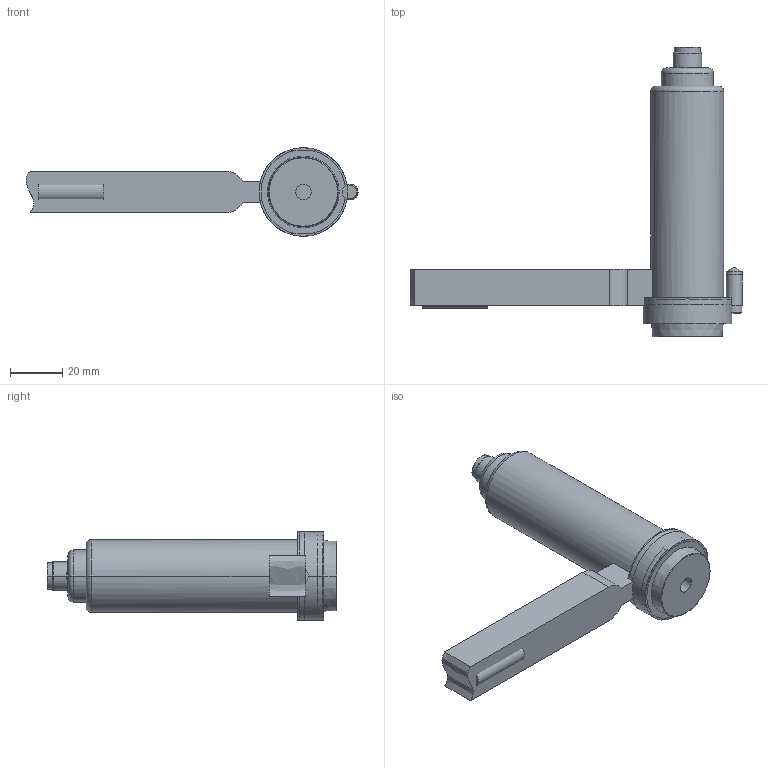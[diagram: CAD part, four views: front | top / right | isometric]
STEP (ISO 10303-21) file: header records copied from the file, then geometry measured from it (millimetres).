
FILE_DESCRIPTION((''),'2;1');
FILE_NAME('DG070004-R_ASM','2020-04-02T',('benoit'),(''),'PRO/ENGINEER BY PARAMETRIC TECHNOLOGY CORPORATION, 2007450','PRO/ENGINEER BY PARAMETRIC TECHNOLOGY CORPORATION, 2007450','');
FILE_SCHEMA(('CONFIG_CONTROL_DESIGN'));
Length unit declared in the file: millimetre
Products named in the file (9): DG010024-R; BF021024; DG070022; DG070020_CLIENT; CAPOT_79MM; GOUPILLE-6-16; 19X1_2E; DG070004-POCHE; DG070004-R_ASM
Assembly tree (8 placements, depth 2):
  DG070004-R_ASM
    DG010024-R
    BF021024
    DG070022
    DG070020_CLIENT
    CAPOT_79MM
    GOUPILLE-6-16
    19X1_2E
    DG070004-POCHE
Bounding box: 127.55 x 111.29 x 34 mm (x, y, z)
Volume: 127158.3 mm3; surface area: 53136.3 mm2
Topology: 8 solids, 8 shells, 268 faces, 651 edges, 405 vertices
Faces by surface type: cylinder 97, plane 92, cone 38, bspline 22, torus 16, sphere 2, extrusion 1
Entity records: 11588 total; most frequent: CARTESIAN_POINT 5178, DIRECTION 1317, ORIENTED_EDGE 1294, EDGE_CURVE 647, AXIS2_PLACEMENT_3D 518, VERTEX_POINT 405, EDGE_LOOP 294, VECTOR 281
